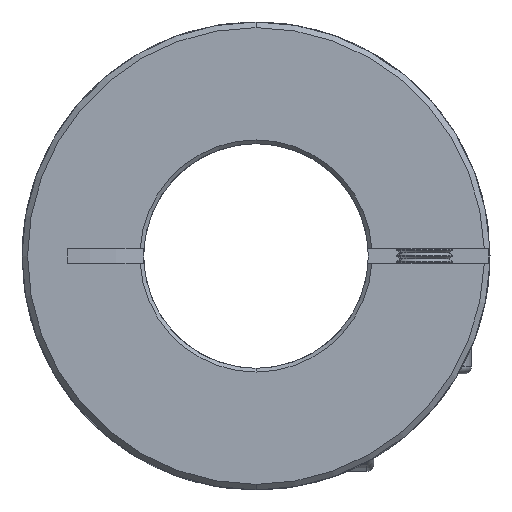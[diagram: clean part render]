
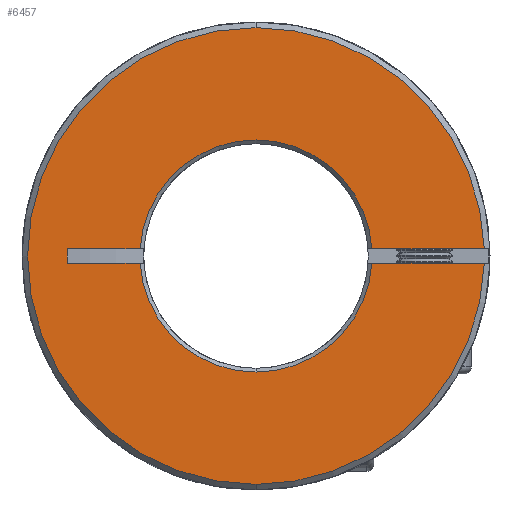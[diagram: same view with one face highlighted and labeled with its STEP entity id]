
A CAD part, front view. The second image highlights one B-rep face of the part: STEP entity #6457.
In plain terms, the highlighted planar face has unit normal (0, -1, 0).
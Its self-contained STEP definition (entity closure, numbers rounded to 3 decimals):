
#4 = VERTEX_POINT ( 'NONE', #1608 ) ;
#200 = DIRECTION ( 'NONE',  ( 0., 0., 1. ) ) ;
#430 = EDGE_CURVE ( 'NONE', #14951, #13874, #11652, .T. ) ;
#637 = EDGE_CURVE ( 'NONE', #14182, #13364, #2949, .T. ) ;
#641 = DIRECTION ( 'NONE',  ( 0., 0., 1. ) ) ;
#643 = DIRECTION ( 'NONE',  ( 0., 1., 0. ) ) ;
#821 = AXIS2_PLACEMENT_3D ( 'NONE', #8449, #13694, #200 ) ;
#1091 = EDGE_CURVE ( 'NONE', #9108, #6132, #6578, .T. ) ;
#1106 = ORIENTED_EDGE ( 'NONE', *, *, #1091, .T. ) ;
#1287 = CARTESIAN_POINT ( 'NONE',  ( -50., 0., -0.75 ) ) ;
#1608 = CARTESIAN_POINT ( 'NONE',  ( 0., 0., 24.4 ) ) ;
#1654 = CIRCLE ( 'NONE', #3603, 24.4 ) ;
#1835 = CARTESIAN_POINT ( 'NONE',  ( -12.377, 0., -0.75 ) ) ;
#2488 = ORIENTED_EDGE ( 'NONE', *, *, #430, .T. ) ;
#2687 = LINE ( 'NONE', #1287, #3106 ) ;
#2690 = CARTESIAN_POINT ( 'NONE',  ( 24.388, 0., -0.75 ) ) ;
#2949 = LINE ( 'NONE', #4648, #10563 ) ;
#3037 = EDGE_CURVE ( 'NONE', #4, #9108, #1654, .T. ) ;
#3106 = VECTOR ( 'NONE', #3886, 1000. ) ;
#3505 = LINE ( 'NONE', #15136, #13648 ) ;
#3601 = VERTEX_POINT ( 'NONE', #1835 ) ;
#3603 = AXIS2_PLACEMENT_3D ( 'NONE', #16655, #11042, #12596 ) ;
#3630 = EDGE_CURVE ( 'NONE', #13874, #14182, #17320, .T. ) ;
#3663 = CARTESIAN_POINT ( 'NONE',  ( -20.149, 0., 0.75 ) ) ;
#3708 = CARTESIAN_POINT ( 'NONE',  ( -20.149, 0., -0.75 ) ) ;
#3785 = LINE ( 'NONE', #3708, #7818 ) ;
#3844 = ORIENTED_EDGE ( 'NONE', *, *, #6678, .T. ) ;
#3883 = EDGE_CURVE ( 'NONE', #8222, #16387, #9492, .T. ) ;
#3886 = DIRECTION ( 'NONE',  ( 1., 0., 0. ) ) ;
#4124 = AXIS2_PLACEMENT_3D ( 'NONE', #11798, #9001, #12993 ) ;
#4304 = AXIS2_PLACEMENT_3D ( 'NONE', #11549, #643, #15556 ) ;
#4648 = CARTESIAN_POINT ( 'NONE',  ( -50., 0., 0.75 ) ) ;
#5011 = CARTESIAN_POINT ( 'NONE',  ( 0., 0., 0. ) ) ;
#5417 = EDGE_CURVE ( 'NONE', #16387, #3601, #8168, .T. ) ;
#5719 = DIRECTION ( 'NONE',  ( 0., 0., 1. ) ) ;
#5903 = CARTESIAN_POINT ( 'NONE',  ( 24.388, 0., 0.75 ) ) ;
#6132 = VERTEX_POINT ( 'NONE', #2690 ) ;
#6281 = DIRECTION ( 'NONE',  ( 0., 0., 1. ) ) ;
#6373 = CARTESIAN_POINT ( 'NONE',  ( 12.377, 0., -0.75 ) ) ;
#6457 = ADVANCED_FACE ( 'NONE', ( #11090 ), #12642, .F. ) ;
#6578 = CIRCLE ( 'NONE', #12332, 24.4 ) ;
#6678 = EDGE_CURVE ( 'NONE', #13364, #4, #11502, .T. ) ;
#6728 = DIRECTION ( 'NONE',  ( 1., 0., 0. ) ) ;
#6752 = ORIENTED_EDGE ( 'NONE', *, *, #637, .T. ) ;
#6882 = EDGE_LOOP ( 'NONE', ( #15297, #7254, #13944, #12448, #14423, #2488, #16601, #6752, #3844, #14212, #1106 ) ) ;
#6918 = CARTESIAN_POINT ( 'NONE',  ( -12.377, 0., 0.75 ) ) ;
#7254 = ORIENTED_EDGE ( 'NONE', *, *, #3883, .T. ) ;
#7339 = AXIS2_PLACEMENT_3D ( 'NONE', #12800, #16816, #641 ) ;
#7818 = VECTOR ( 'NONE', #6281, 1000. ) ;
#8168 = CIRCLE ( 'NONE', #4304, 12.4 ) ;
#8222 = VERTEX_POINT ( 'NONE', #6373 ) ;
#8449 = CARTESIAN_POINT ( 'NONE',  ( -50., 0., 32.858 ) ) ;
#8599 = DIRECTION ( 'NONE',  ( 1., 0., 0. ) ) ;
#9001 = DIRECTION ( 'NONE',  ( 0., -1., 0. ) ) ;
#9108 = VERTEX_POINT ( 'NONE', #9415 ) ;
#9415 = CARTESIAN_POINT ( 'NONE',  ( 0., 0., -24.4 ) ) ;
#9486 = CARTESIAN_POINT ( 'NONE',  ( -50., 0., 0.75 ) ) ;
#9492 = CIRCLE ( 'NONE', #7339, 12.4 ) ;
#9797 = DIRECTION ( 'NONE',  ( 0., 1., 0. ) ) ;
#10563 = VECTOR ( 'NONE', #12953, 1000. ) ;
#11042 = DIRECTION ( 'NONE',  ( 0., -1., 0. ) ) ;
#11090 = FACE_OUTER_BOUND ( 'NONE', #6882, .T. ) ;
#11094 = AXIS2_PLACEMENT_3D ( 'NONE', #12579, #9797, #5719 ) ;
#11502 = CIRCLE ( 'NONE', #4124, 24.4 ) ;
#11549 = CARTESIAN_POINT ( 'NONE',  ( 0., 0., 0. ) ) ;
#11652 = LINE ( 'NONE', #9486, #15444 ) ;
#11678 = DIRECTION ( 'NONE',  ( 0., 0., 1. ) ) ;
#11798 = CARTESIAN_POINT ( 'NONE',  ( 0., 0., 0. ) ) ;
#12013 = CARTESIAN_POINT ( 'NONE',  ( -20.149, 0., -0.75 ) ) ;
#12332 = AXIS2_PLACEMENT_3D ( 'NONE', #5011, #13036, #11678 ) ;
#12448 = ORIENTED_EDGE ( 'NONE', *, *, #15778, .F. ) ;
#12579 = CARTESIAN_POINT ( 'NONE',  ( 0., 0., 0. ) ) ;
#12596 = DIRECTION ( 'NONE',  ( 0., 0., 1. ) ) ;
#12642 = PLANE ( 'NONE',  #821 ) ;
#12800 = CARTESIAN_POINT ( 'NONE',  ( 0., 0., 0. ) ) ;
#12953 = DIRECTION ( 'NONE',  ( 1., 0., 0. ) ) ;
#12993 = DIRECTION ( 'NONE',  ( 0., 0., 1. ) ) ;
#13036 = DIRECTION ( 'NONE',  ( 0., -1., 0. ) ) ;
#13364 = VERTEX_POINT ( 'NONE', #5903 ) ;
#13648 = VECTOR ( 'NONE', #8599, 1000. ) ;
#13694 = DIRECTION ( 'NONE',  ( 0., 1., 0. ) ) ;
#13874 = VERTEX_POINT ( 'NONE', #6918 ) ;
#13944 = ORIENTED_EDGE ( 'NONE', *, *, #5417, .T. ) ;
#14182 = VERTEX_POINT ( 'NONE', #17482 ) ;
#14212 = ORIENTED_EDGE ( 'NONE', *, *, #3037, .T. ) ;
#14423 = ORIENTED_EDGE ( 'NONE', *, *, #15914, .T. ) ;
#14836 = CARTESIAN_POINT ( 'NONE',  ( 0., 0., -12.4 ) ) ;
#14951 = VERTEX_POINT ( 'NONE', #3663 ) ;
#15136 = CARTESIAN_POINT ( 'NONE',  ( -50., 0., -0.75 ) ) ;
#15297 = ORIENTED_EDGE ( 'NONE', *, *, #17528, .F. ) ;
#15444 = VECTOR ( 'NONE', #6728, 1000. ) ;
#15556 = DIRECTION ( 'NONE',  ( 0., 0., 1. ) ) ;
#15778 = EDGE_CURVE ( 'NONE', #16391, #3601, #3505, .T. ) ;
#15914 = EDGE_CURVE ( 'NONE', #16391, #14951, #3785, .T. ) ;
#16387 = VERTEX_POINT ( 'NONE', #14836 ) ;
#16391 = VERTEX_POINT ( 'NONE', #12013 ) ;
#16601 = ORIENTED_EDGE ( 'NONE', *, *, #3630, .T. ) ;
#16655 = CARTESIAN_POINT ( 'NONE',  ( 0., 0., 0. ) ) ;
#16816 = DIRECTION ( 'NONE',  ( 0., 1., 0. ) ) ;
#17320 = CIRCLE ( 'NONE', #11094, 12.4 ) ;
#17482 = CARTESIAN_POINT ( 'NONE',  ( 12.377, 0., 0.75 ) ) ;
#17528 = EDGE_CURVE ( 'NONE', #8222, #6132, #2687, .T. ) ;
